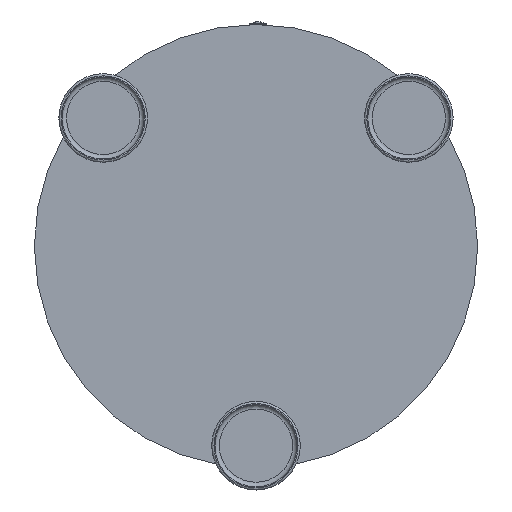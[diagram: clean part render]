
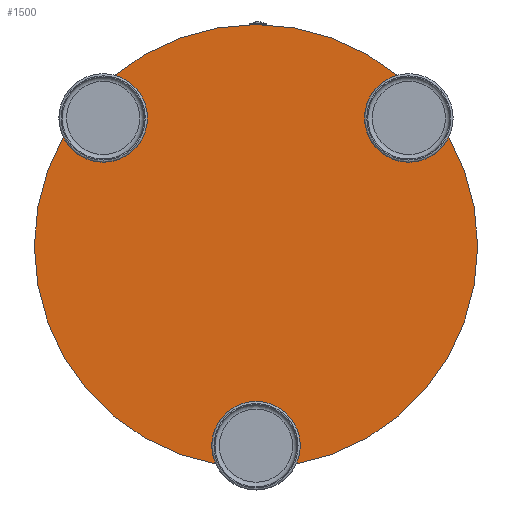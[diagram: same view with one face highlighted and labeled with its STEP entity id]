
A CAD part, front view. The second image highlights one B-rep face of the part: STEP entity #1500.
In plain terms, the highlighted planar face has unit normal (0, -1, 0).
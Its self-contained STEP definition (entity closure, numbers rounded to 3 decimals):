
#184=PLANE('',#1766);
#476=FACE_OUTER_BOUND('',#594,.T.);
#594=EDGE_LOOP('',(#1379));
#687=CIRCLE('',#1764,100.);
#812=VERTEX_POINT('',#2866);
#1001=EDGE_CURVE('',#812,#812,#687,.T.);
#1379=ORIENTED_EDGE('',*,*,#1001,.F.);
#1500=ADVANCED_FACE('',(#476),#184,.F.);
#1764=AXIS2_PLACEMENT_3D('',#2868,#2257,#2258);
#1766=AXIS2_PLACEMENT_3D('',#2870,#2261,#2262);
#2257=DIRECTION('center_axis',(0.,1.,0.));
#2258=DIRECTION('ref_axis',(1.,0.,0.));
#2261=DIRECTION('center_axis',(0.,1.,0.));
#2262=DIRECTION('ref_axis',(1.,0.,0.));
#2866=CARTESIAN_POINT('',(-100.,0.,0.));
#2868=CARTESIAN_POINT('Origin',(0.,0.,0.));
#2870=CARTESIAN_POINT('Origin',(0.,0.,0.));
